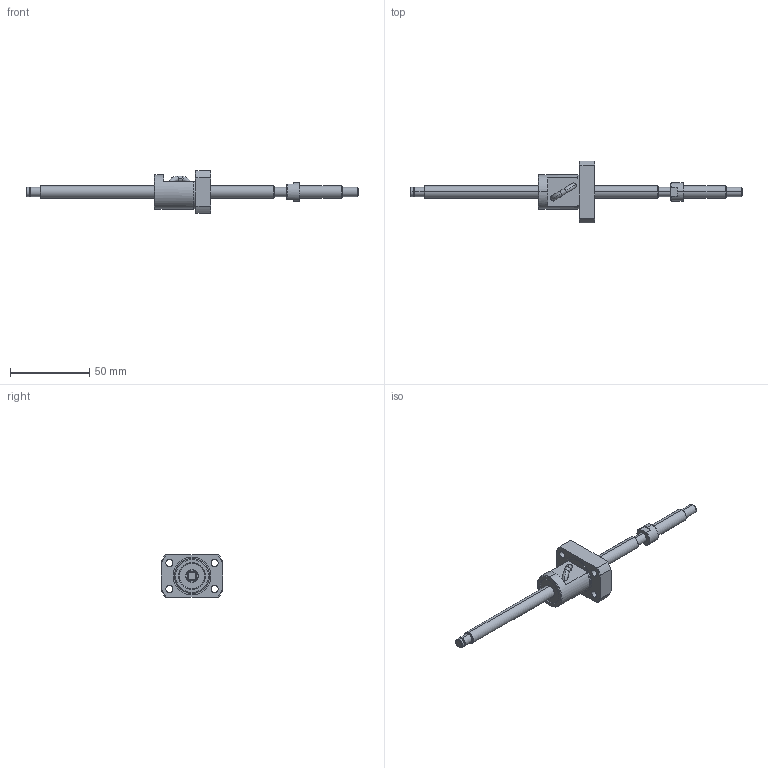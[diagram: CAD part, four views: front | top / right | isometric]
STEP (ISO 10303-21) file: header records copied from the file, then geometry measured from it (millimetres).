
FILE_DESCRIPTION (( 'STEP AP214' ), '1' );
FILE_NAME ('BS0808A-3D.STEP', '2014-03-07T16:18:18', ( '' ), ( '' ), 'SwSTEP 2.0', 'SolidWorks 2012', '' );
FILE_SCHEMA (( 'AUTOMOTIVE_DESIGN' ));
Length unit declared in the file: millimetre
Products named in the file (3): BS0808AŽ²; BS0808Aナット; BS0808A-3D
Assembly tree (2 placements, depth 2):
  BS0808A-3D
    BS0808Aナット
    BS0808AŽ²
Bounding box: 210 x 39 x 27 mm (x, y, z)
Volume: 25794.4 mm3; surface area: 14006.3 mm2
Topology: 5 solids, 5 shells, 165 faces, 412 edges, 266 vertices
Faces by surface type: cylinder 80, plane 45, cone 34, torus 4, bspline 2
Entity records: 6299 total; most frequent: CARTESIAN_POINT 2097, DIRECTION 876, ORIENTED_EDGE 820, EDGE_CURVE 410, AXIS2_PLACEMENT_3D 369, VERTEX_POINT 266, CIRCLE 201, EDGE_LOOP 200
